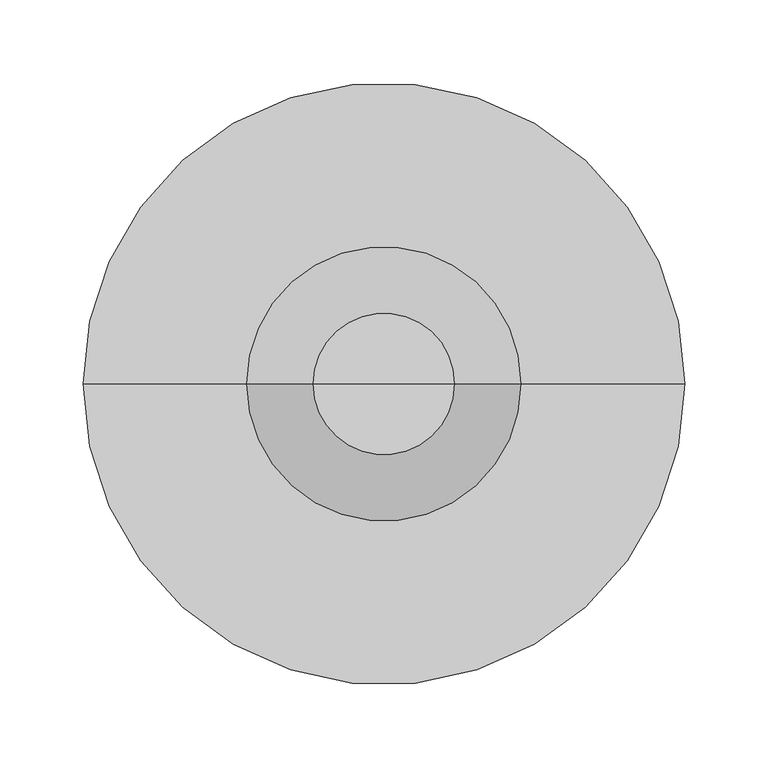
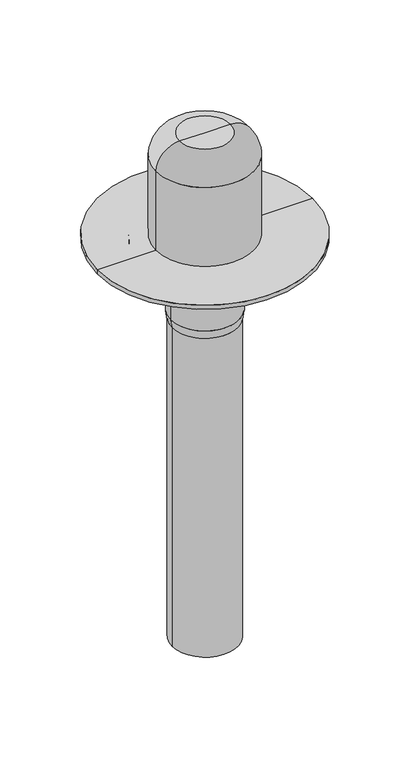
"""IFC4 building model written with IfcOpenShell, lengths in millimetres: flow terminal geometry, BIMLIB_Воронка_Кровельная_Fachmann_V-PVC : 110х720."""

from ifc_helpers import new_model, si_unit, point, frame, origin, origin_with_axes, place, context, project, spatial, polyline, circle_curve, ellipse_curve, trimmed, source, transform, mapped, element, save
from ifc_brep_helpers import plane_surface, cylinder_surface, revolved_surface, advanced_brep


def flow_terminal_f3b6e995(model_context):
    return source(origin(), model_context, "Body", "AdvancedBrep", [
        advanced_brep(
        [(55.0, 0.0, -705.0), (-55.0, 0.0, -705.0), (-55.0, 0.0, -140.0), (55.0, 0.0, -140.0), (-57.5, 0.0, -125.0), (57.5, 0.0, -125.0), (-57.5, 0.0, -75.0), (57.5, 0.0, -75.0), (-82.5, 0.0, -35.0), (82.5, 0.0, -35.0), (-111.5, 0.0, -35.0), (111.5, 0.0, -35.0), (-111.5, 0.0, 0.0), (111.5, 0.0, 0.0), (0.0, 0.0, 0.0)],
        [
            (0, 1, circle_curve(frame((0.0, 0.0, -705.0), z_axis=(0.0, 0.0, -1.0), x_axis=(-1.0, 0.0, 0.0)), 55.0)),
            (1, 0, circle_curve(frame((0.0, 0.0, -705.0), z_axis=(0.0, 0.0, -1.0), x_axis=(-1.0, 0.0, 0.0)), 55.0)),
            (1, 2),
            (2, 3, circle_curve(frame((0.0, 0.0, -140.0), z_axis=(0.0, 0.0, -1.0), x_axis=(-1.0, 0.0, 0.0)), 55.0)),
            (3, 0),
            (3, 2, circle_curve(frame((0.0, 0.0, -140.0), z_axis=(0.0, 0.0, -1.0), x_axis=(-1.0, 0.0, 0.0)), 55.0)),
            (4, 5, circle_curve(frame((0.0, 0.0, -125.0), z_axis=(0.0, 0.0, -1.0), x_axis=(1.0, 0.0, 0.0)), 57.5)),
            (5, 3),
            (2, 4),
            (5, 4, circle_curve(frame((0.0, 0.0, -125.0), z_axis=(0.0, 0.0, -1.0), x_axis=(1.0, 0.0, 0.0)), 57.5)),
            (4, 6),
            (6, 7, circle_curve(frame((0.0, 0.0, -75.0), z_axis=(0.0, 0.0, -1.0), x_axis=(1.0, 0.0, 0.0)), 57.5)),
            (7, 5),
            (7, 6, circle_curve(frame((0.0, 0.0, -75.0), z_axis=(0.0, 0.0, -1.0), x_axis=(1.0, 0.0, 0.0)), 57.5)),
            (6, 8),
            (8, 9, circle_curve(frame((0.0, 0.0, -35.0), z_axis=(0.0, 0.0, -1.0), x_axis=(1.0, 0.0, 0.0)), 82.5)),
            (9, 7),
            (9, 8, circle_curve(frame((0.0, 0.0, -35.0), z_axis=(0.0, 0.0, -1.0), x_axis=(1.0, 0.0, 0.0)), 82.5)),
            (8, 10),
            (10, 11, circle_curve(frame((0.0, 0.0, -35.0), z_axis=(0.0, 0.0, -1.0), x_axis=(1.0, 0.0, 0.0)), 111.5)),
            (11, 9),
            (11, 10, circle_curve(frame((0.0, 0.0, -35.0), z_axis=(0.0, 0.0, -1.0), x_axis=(1.0, 0.0, 0.0)), 111.5)),
            (10, 12),
            (12, 13, circle_curve(frame((0.0, 0.0, 0.0), z_axis=(0.0, 0.0, -1.0), x_axis=(1.0, 0.0, 0.0)), 111.5)),
            (13, 11),
            (13, 12, circle_curve(frame((0.0, 0.0, 0.0), z_axis=(0.0, 0.0, -1.0), x_axis=(1.0, 0.0, 0.0)), 111.5)),
            (12, 14),
            (14, 13),
        ],
        [
            plane_surface(frame((-55.0, 0.0, -705.0), z_axis=(0.0, 0.0, -1.0), x_axis=(0.0, 1.0, 0.0))),
            cylinder_surface(frame((0.0, 0.0, -705.0), z_axis=(0.0, 0.0, 1.0), x_axis=(-1.0, 0.0, 0.0)), 55.0),
            revolved_surface(polyline([(55.0, 0.0, -140.0), (57.5, 0.0, -125.0)]), (0.0, 0.0, 267.0), (0.0, 0.0, 1.0)),
            cylinder_surface(frame((0.0, 0.0, 267.0), z_axis=(0.0, 0.0, 1.0), x_axis=(1.0, 0.0, 0.0)), 57.5),
            revolved_surface(polyline([(57.5, 0.0, -75.0), (82.5, 0.0, -35.0)]), (0.0, 0.0, 267.0), (0.0, 0.0, 1.0)),
            plane_surface(frame((0.0, 0.0, -35.0), z_axis=(0.0, 0.0, -1.0), x_axis=(1.0, 0.0, 0.0))),
            cylinder_surface(frame((0.0, 0.0, 267.0), z_axis=(0.0, 0.0, 1.0), x_axis=(1.0, 0.0, 0.0)), 111.5),
            plane_surface(origin_with_axes()),
        ],
        [
            (0, [[1, 2]]),
            (1, [[-2, 3, 4, 5]]),
            (1, [[-1, -5, 6, -3]]),
            (2, [[7, 8, -4, 9]]),
            (2, [[-8, 10, -9, -6]]),
            (3, [[-7, 11, 12, 13]]),
            (3, [[-10, -13, 14, -11]]),
            (4, [[-12, 15, 16, 17]]),
            (4, [[-14, -17, 18, -15]]),
            (5, [[-16, 19, 20, 21]]),
            (5, [[-18, -21, 22, -19]]),
            (6, [[-20, 23, 24, 25]]),
            (6, [[-22, -25, 26, -23]]),
            (7, [[-24, 27, 28]]),
            (7, [[-26, -28, -27]]),
        ],
    ),
        advanced_brep(
        [(0.0, 0.0, 187.0), (42.5, 0.0, 187.0), (-42.5, 0.0, 187.0), (-181.0, 0.0, 0.0), (181.0, 0.0, 0.0), (0.0, 0.0, 0.0), (-181.0, 0.0, 7.0), (181.0, 0.0, 7.0), (-82.5, 0.0, 7.0), (82.5, 0.0, 7.0), (-82.5, 0.0, 147.0), (82.5, 0.0, 147.0)],
        [
            (0, 1),
            (1, 2, circle_curve(frame((0.0, 0.0, 187.0), z_axis=(0.0, 0.0, 1.0), x_axis=(1.0, 0.0, 0.0)), 42.5)),
            (2, 0),
            (2, 1, circle_curve(frame((0.0, 0.0, 187.0), z_axis=(0.0, 0.0, 1.0), x_axis=(1.0, 0.0, 0.0)), 42.5)),
            (3, 4, circle_curve(frame((0.0, 0.0, 0.0), z_axis=(0.0, 0.0, -1.0), x_axis=(1.0, 0.0, 0.0)), 181.0)),
            (4, 5),
            (5, 3),
            (4, 3, circle_curve(frame((0.0, 0.0, 0.0), z_axis=(0.0, 0.0, -1.0), x_axis=(1.0, 0.0, 0.0)), 181.0)),
            (6, 7, circle_curve(frame((0.0, 0.0, 7.0), z_axis=(0.0, 0.0, -1.0), x_axis=(1.0, 0.0, 0.0)), 181.0)),
            (7, 4),
            (3, 6),
            (7, 6, circle_curve(frame((0.0, 0.0, 7.0), z_axis=(0.0, 0.0, -1.0), x_axis=(1.0, 0.0, 0.0)), 181.0)),
            (8, 9, circle_curve(frame((0.0, 0.0, 7.0), z_axis=(0.0, 0.0, -1.0), x_axis=(1.0, 0.0, 0.0)), 82.5)),
            (9, 7),
            (6, 8),
            (9, 8, circle_curve(frame((0.0, 0.0, 7.0), z_axis=(0.0, 0.0, -1.0), x_axis=(1.0, 0.0, 0.0)), 82.5)),
            (10, 11, circle_curve(frame((0.0, 0.0, 147.0), z_axis=(0.0, 0.0, -1.0), x_axis=(1.0, 0.0, 0.0)), 82.5)),
            (11, 9),
            (8, 10),
            (11, 10, circle_curve(frame((0.0, 0.0, 147.0), z_axis=(0.0, 0.0, -1.0), x_axis=(1.0, 0.0, 0.0)), 82.5)),
            (1, 11, circle_curve(frame((42.5, 0.0, 147.0), z_axis=(0.0, 1.0, 0.0), x_axis=(1.0, 0.0, 0.0)), 40.0)),
            (10, 2, circle_curve(frame((-42.5, 0.0, 147.0), z_axis=(0.0, 1.0, 0.0), x_axis=(-1.0, 0.0, 0.0)), 40.0)),
        ],
        [
            plane_surface(frame((0.0, 0.0, 187.0), z_axis=(0.0, 0.0, 1.0), x_axis=(1.0, 0.0, 0.0))),
            plane_surface(frame((0.0, 0.0, 0.0), z_axis=(0.0, 0.0, -1.0), x_axis=(1.0, 0.0, 0.0))),
            cylinder_surface(frame((0.0, 0.0, 337.0), z_axis=(0.0, 0.0, 1.0), x_axis=(1.0, 0.0, 0.0)), 181.0),
            plane_surface(frame((0.0, 0.0, 7.0), z_axis=(0.0, 0.0, 1.0), x_axis=(1.0, 0.0, 0.0))),
            cylinder_surface(frame((0.0, 0.0, 337.0), z_axis=(0.0, 0.0, 1.0), x_axis=(1.0, 0.0, 0.0)), 82.5),
            revolved_surface(trimmed(ellipse_curve(frame((42.5, 0.0, 147.0), z_axis=(0.0, -1.0, 0.0), x_axis=(1.0, 0.0, 0.0)), 40.0, 40.0), [point((82.5, 0.0, 147.0))], [point((42.5, 0.0, 187.0))], True, "CARTESIAN"), (0.0, 0.0, 337.0), (0.0, 0.0, 1.0)),
        ],
        [
            (0, [[1, 2, 3]]),
            (0, [[-3, 4, -1]]),
            (1, [[5, 6, 7]]),
            (1, [[8, -7, -6]]),
            (2, [[9, 10, -5, 11]]),
            (2, [[12, -11, -8, -10]]),
            (3, [[13, 14, -9, 15]]),
            (3, [[16, -15, -12, -14]]),
            (4, [[17, 18, -13, 19]]),
            (4, [[20, -19, -16, -18]]),
            (5, [[-2, 21, -17, 22]]),
            (5, [[-4, -22, -20, -21]]),
        ],
    ),
    ])


if __name__ == "__main__":
    model = new_model("IFC4")
    model_context = context("Model", 3, world=origin())
    ifc_project = project(units=[si_unit("LENGTHUNIT", "METRE", prefix="MILLI")], contexts=[model_context])
    site = spatial("IfcSite", under=ifc_project)
    building = spatial("IfcBuilding", under=site)
    placement = place(None, origin())
    flow_terminal_shape = flow_terminal_f3b6e995(model_context)
    element("IfcFlowTerminal", 1, ObjectType="BIMLIB_Воронка_Кровельная_Fachmann_V-PVC : 110х720", at=placement, inside=building, context=model_context, shape_type="MappedRepresentation", body=[
        mapped(flow_terminal_shape, transform((0.0, 0.0, 0.0), x_axis=(1.0, 0.0, 0.0), y_axis=(0.0, 1.0, 0.0), z_axis=(0.0, 0.0, 1.0))),
    ])
    save(model, "model.ifc")
